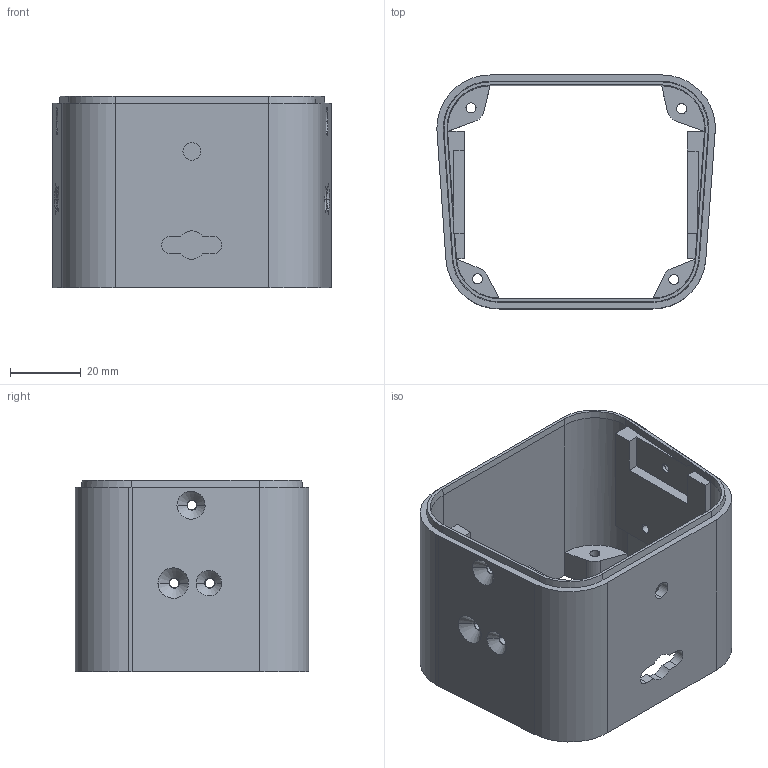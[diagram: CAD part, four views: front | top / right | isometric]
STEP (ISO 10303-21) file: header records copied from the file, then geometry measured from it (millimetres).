
FILE_DESCRIPTION (( 'STEP AP203' ), '1' );
FILE_NAME ('kasa v4.STEP', '2016-11-03T14:16:19', ( '' ), ( '' ), 'SwSTEP 2.0', 'SolidWorks 2015', '' );
FILE_SCHEMA (( 'CONFIG_CONTROL_DESIGN' ));
Length unit declared in the file: millimetre
Products named in the file (1): kasa v4
Bounding box: 78.56 x 66 x 54 mm (x, y, z)
Volume: 47351.2 mm3; surface area: 30317.4 mm2
Topology: 1 solids, 1 shells, 128 faces, 343 edges, 224 vertices
Faces by surface type: plane 63, cylinder 43, cone 22
Entity records: 4149 total; most frequent: CARTESIAN_POINT 756, DIRECTION 700, ORIENTED_EDGE 686, EDGE_CURVE 343, AXIS2_PLACEMENT_3D 248, VERTEX_POINT 224, LINE 204, VECTOR 204
